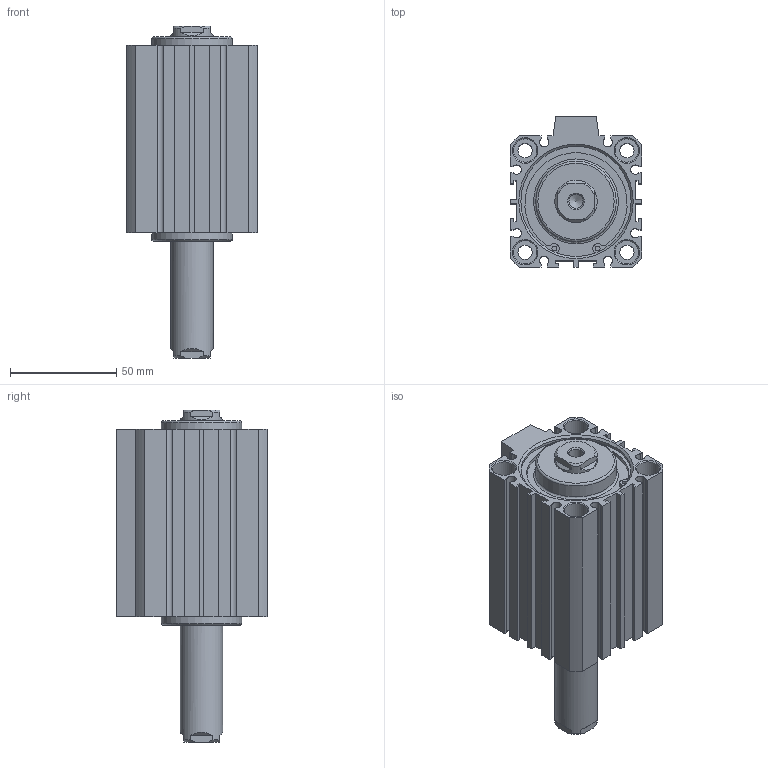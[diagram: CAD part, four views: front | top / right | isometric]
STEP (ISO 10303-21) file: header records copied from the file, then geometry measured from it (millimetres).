
FILE_DESCRIPTION((''),'2;1');
FILE_NAME('I:\3D電子目錄\氣缸\JDD\JDD-S\JDD50-S\JDD50x50-S.stp','2007-02-09T08:41:48',('662F206'),(''),'Autodesk Inventor 10','Autodesk Inventor 10','');
FILE_SCHEMA(('AUTOMOTIVE_DESIGN { 1 0 10303 214 1 1 1 1 }'));
Length unit declared in the file: millimetre
Products named in the file (3): JDD50-S; R 形環 52
Assembly tree (3 placements, depth 2):
  JDD50-S
    JDD50-S
    R 形環 52  x2
Bounding box: 62 x 71 x 156.6 mm (x, y, z)
Volume: 327226.6 mm3; surface area: 62902.3 mm2
Topology: 3 solids, 3 shells, 200 faces, 502 edges, 330 vertices
Faces by surface type: plane 116, cylinder 52, cone 24, bspline 6, torus 2
Full cylindrical faces by diameter (mm): 2.3 x4, 2.7 x2, 6.8 x4, 11 x8, 20 x2, 38 x2, 52 x4, 55 x2
Entity records: 5511 total; most frequent: CARTESIAN_POINT 1094, DIRECTION 908, ORIENTED_EDGE 824, EDGE_CURVE 412, AXIS2_PLACEMENT_3D 324, VERTEX_POINT 300, EDGE_LOOP 272, VECTOR 260
